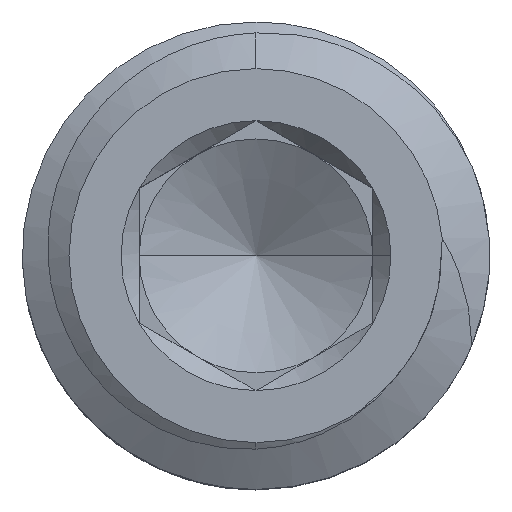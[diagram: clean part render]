
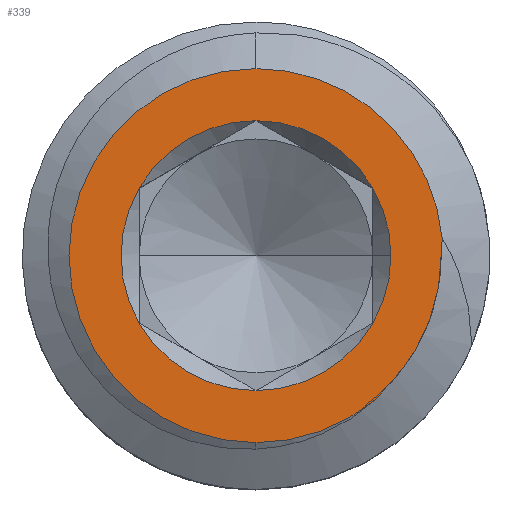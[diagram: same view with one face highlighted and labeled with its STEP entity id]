
A CAD part, top view. The second image highlights one B-rep face of the part: STEP entity #339.
In plain terms, the highlighted planar face has unit normal (0, 0, 1).
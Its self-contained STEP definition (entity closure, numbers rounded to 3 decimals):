
#10 = EDGE_CURVE ( 'NONE', #2118, #950, #1309, .T. ) ;
#11 = CIRCLE ( 'NONE', #1672, 1.443 ) ;
#17 = VERTEX_POINT ( 'NONE', #1960 ) ;
#34 = DIRECTION ( 'NONE',  ( 0., 0., 1. ) ) ;
#53 = DIRECTION ( 'NONE',  ( 0., 0., 1. ) ) ;
#69 = DIRECTION ( 'NONE',  ( 1., 0., 0. ) ) ;
#82 = CARTESIAN_POINT ( 'NONE',  ( 1.321, -1.494, 2.088 ) ) ;
#86 = ORIENTED_EDGE ( 'NONE', *, *, #179, .T. ) ;
#90 = CIRCLE ( 'NONE', #532, 1.443 ) ;
#106 = CARTESIAN_POINT ( 'NONE',  ( 0., 2., 2.088 ) ) ;
#123 = CARTESIAN_POINT ( 'NONE',  ( 0., -1.443, 2.088 ) ) ;
#143 = ORIENTED_EDGE ( 'NONE', *, *, #355, .T. ) ;
#152 = EDGE_CURVE ( 'NONE', #1772, #17, #11, .T. ) ;
#155 = DIRECTION ( 'NONE',  ( 0., 0., 1. ) ) ;
#176 = DIRECTION ( 'NONE',  ( 0., 0., 1. ) ) ;
#179 = EDGE_CURVE ( 'NONE', #196, #1793, #669, .T. ) ;
#193 = ORIENTED_EDGE ( 'NONE', *, *, #1414, .F. ) ;
#196 = VERTEX_POINT ( 'NONE', #654 ) ;
#263 = CARTESIAN_POINT ( 'NONE',  ( 1.278, -1.538, 2.088 ) ) ;
#293 = VERTEX_POINT ( 'NONE', #468 ) ;
#297 = ORIENTED_EDGE ( 'NONE', *, *, #1443, .F. ) ;
#307 = AXIS2_PLACEMENT_3D ( 'NONE', #1234, #155, #2122 ) ;
#309 = CARTESIAN_POINT ( 'NONE',  ( 0., 0., 2.088 ) ) ;
#312 = DIRECTION ( 'NONE',  ( 0., -1., 0. ) ) ;
#328 = CARTESIAN_POINT ( 'NONE',  ( 1.718, -0.994, 2.088 ) ) ;
#339 = ADVANCED_FACE ( 'NONE', ( #2177, #806 ), #470, .F. ) ;
#355 = EDGE_CURVE ( 'NONE', #1793, #1472, #1362, .T. ) ;
#394 = VERTEX_POINT ( 'NONE', #2174 ) ;
#425 = B_SPLINE_CURVE_WITH_KNOTS ( 'NONE', 3,
 ( #1494, #2218, #2034, #960 ),
 .UNSPECIFIED., .F., .F.,
 ( 4, 4 ),
 ( 0.002, 0.002 ),
 .UNSPECIFIED. ) ;
#442 = DIRECTION ( 'NONE',  ( 1., 0., 0. ) ) ;
#468 = CARTESIAN_POINT ( 'NONE',  ( 1.278, -1.538, 2.088 ) ) ;
#470 = PLANE ( 'NONE',  #871 ) ;
#482 = DIRECTION ( 'NONE',  ( 0., 0., 1. ) ) ;
#492 = ORIENTED_EDGE ( 'NONE', *, *, #1479, .F. ) ;
#499 = CARTESIAN_POINT ( 'NONE',  ( 1.917, -0.515, 2.088 ) ) ;
#532 = AXIS2_PLACEMENT_3D ( 'NONE', #588, #53, #2242 ) ;
#535 = ORIENTED_EDGE ( 'NONE', *, *, #1272, .F. ) ;
#588 = CARTESIAN_POINT ( 'NONE',  ( 0., 0., 2.088 ) ) ;
#601 = AXIS2_PLACEMENT_3D ( 'NONE', #1886, #777, #2066 ) ;
#618 = CIRCLE ( 'NONE', #674, 1.443 ) ;
#637 = DIRECTION ( 'NONE',  ( 0., 1., 0. ) ) ;
#648 = VERTEX_POINT ( 'NONE', #1518 ) ;
#654 = CARTESIAN_POINT ( 'NONE',  ( 1.992, 0.184, 2.088 ) ) ;
#669 = CIRCLE ( 'NONE', #2007, 2. ) ;
#672 = EDGE_LOOP ( 'NONE', ( #1153, #86, #143, #1244, #1647, #2155 ) ) ;
#674 = AXIS2_PLACEMENT_3D ( 'NONE', #1901, #975, #69 ) ;
#679 = ORIENTED_EDGE ( 'NONE', *, *, #1318, .F. ) ;
#749 = CIRCLE ( 'NONE', #307, 1.443 ) ;
#777 = DIRECTION ( 'NONE',  ( 0., 0., 1. ) ) ;
#794 = CARTESIAN_POINT ( 'NONE',  ( 1.4, -1.4, 2.088 ) ) ;
#806 = FACE_OUTER_BOUND ( 'NONE', #672, .T. ) ;
#808 = CARTESIAN_POINT ( 'NONE',  ( 0., 0., 2.088 ) ) ;
#829 = CARTESIAN_POINT ( 'NONE',  ( 1.493, -1.308, 2.088 ) ) ;
#854 = DIRECTION ( 'NONE',  ( 1., 0., 0. ) ) ;
#856 = CARTESIAN_POINT ( 'NONE',  ( 1.879, -0.638, 2.088 ) ) ;
#871 = AXIS2_PLACEMENT_3D ( 'NONE', #1743, #2100, #637 ) ;
#918 = ORIENTED_EDGE ( 'NONE', *, *, #1645, .F. ) ;
#938 = EDGE_CURVE ( 'NONE', #1472, #293, #1378, .T. ) ;
#945 = EDGE_CURVE ( 'NONE', #196, #2118, #425, .T. ) ;
#950 = VERTEX_POINT ( 'NONE', #1720 ) ;
#960 = CARTESIAN_POINT ( 'NONE',  ( 1.98, 0., 2.088 ) ) ;
#975 = DIRECTION ( 'NONE',  ( 0., 0., 1. ) ) ;
#993 = CIRCLE ( 'NONE', #1513, 1.443 ) ;
#1001 = DIRECTION ( 'NONE',  ( 1., 0., 0. ) ) ;
#1017 = VERTEX_POINT ( 'NONE', #1516 ) ;
#1039 = CARTESIAN_POINT ( 'NONE',  ( 1.575, -1.208, 2.088 ) ) ;
#1153 = ORIENTED_EDGE ( 'NONE', *, *, #945, .F. ) ;
#1208 = DIRECTION ( 'NONE',  ( 1., 0., 0. ) ) ;
#1211 = CARTESIAN_POINT ( 'NONE',  ( 1.98, -0.131, 2.088 ) ) ;
#1215 = CARTESIAN_POINT ( 'NONE',  ( 1.98, 0., 2.088 ) ) ;
#1229 = CARTESIAN_POINT ( 'NONE',  ( 1.98, 0., 2.088 ) ) ;
#1234 = CARTESIAN_POINT ( 'NONE',  ( 0., 0., 2.088 ) ) ;
#1244 = ORIENTED_EDGE ( 'NONE', *, *, #938, .T. ) ;
#1272 = EDGE_CURVE ( 'NONE', #1565, #1017, #90, .T. ) ;
#1309 = B_SPLINE_CURVE_WITH_KNOTS ( 'NONE', 3,
 ( #1229, #1211, #2293, #499, #856, #1412, #328, #1039, #829, #1569 ),
 .UNSPECIFIED., .F., .F.,
 ( 4, 2, 2, 2, 4 ),
 ( 0., 0., 0.001, 0.001, 0.002 ),
 .UNSPECIFIED. ) ;
#1318 = EDGE_CURVE ( 'NONE', #1017, #648, #993, .T. ) ;
#1362 = CIRCLE ( 'NONE', #1976, 2. ) ;
#1378 = CIRCLE ( 'NONE', #601, 2. ) ;
#1412 = CARTESIAN_POINT ( 'NONE',  ( 1.78, -0.878, 2.088 ) ) ;
#1414 = EDGE_CURVE ( 'NONE', #648, #2248, #2142, .T. ) ;
#1420 = EDGE_LOOP ( 'NONE', ( #535, #918, #2277, #297, #492, #193, #679 ) ) ;
#1428 = CIRCLE ( 'NONE', #1881, 1.443 ) ;
#1443 = EDGE_CURVE ( 'NONE', #394, #1772, #749, .T. ) ;
#1472 = VERTEX_POINT ( 'NONE', #2309 ) ;
#1479 = EDGE_CURVE ( 'NONE', #2248, #394, #1428, .T. ) ;
#1494 = CARTESIAN_POINT ( 'NONE',  ( 1.992, 0.184, 2.088 ) ) ;
#1513 = AXIS2_PLACEMENT_3D ( 'NONE', #1529, #34, #442 ) ;
#1516 = CARTESIAN_POINT ( 'NONE',  ( -1.25, 0.722, 2.088 ) ) ;
#1518 = CARTESIAN_POINT ( 'NONE',  ( -1.25, -0.722, 2.088 ) ) ;
#1529 = CARTESIAN_POINT ( 'NONE',  ( 0., 0., 2.088 ) ) ;
#1565 = VERTEX_POINT ( 'NONE', #1651 ) ;
#1569 = CARTESIAN_POINT ( 'NONE',  ( 1.4, -1.4, 2.088 ) ) ;
#1590 = DIRECTION ( 'NONE',  ( 0., 0., 1. ) ) ;
#1630 = CARTESIAN_POINT ( 'NONE',  ( 0., 0., 2.088 ) ) ;
#1645 = EDGE_CURVE ( 'NONE', #17, #1565, #618, .T. ) ;
#1647 = ORIENTED_EDGE ( 'NONE', *, *, #1684, .F. ) ;
#1651 = CARTESIAN_POINT ( 'NONE',  ( 0., 1.443, 2.088 ) ) ;
#1672 = AXIS2_PLACEMENT_3D ( 'NONE', #808, #2081, #1001 ) ;
#1684 = EDGE_CURVE ( 'NONE', #950, #293, #2340, .T. ) ;
#1720 = CARTESIAN_POINT ( 'NONE',  ( 1.4, -1.4, 2.088 ) ) ;
#1743 = CARTESIAN_POINT ( 'NONE',  ( 0., 0., 2.088 ) ) ;
#1772 = VERTEX_POINT ( 'NONE', #2270 ) ;
#1786 = CARTESIAN_POINT ( 'NONE',  ( 0., 0., 2.088 ) ) ;
#1793 = VERTEX_POINT ( 'NONE', #106 ) ;
#1805 = AXIS2_PLACEMENT_3D ( 'NONE', #309, #1590, #854 ) ;
#1881 = AXIS2_PLACEMENT_3D ( 'NONE', #1786, #482, #1208 ) ;
#1886 = CARTESIAN_POINT ( 'NONE',  ( 0., 0., 2.088 ) ) ;
#1901 = CARTESIAN_POINT ( 'NONE',  ( 0., 0., 2.088 ) ) ;
#1941 = DIRECTION ( 'NONE',  ( 0., 0., 1. ) ) ;
#1960 = CARTESIAN_POINT ( 'NONE',  ( 1.25, 0.722, 2.088 ) ) ;
#1976 = AXIS2_PLACEMENT_3D ( 'NONE', #1630, #176, #1992 ) ;
#1992 = DIRECTION ( 'NONE',  ( 0., -1., 0. ) ) ;
#2007 = AXIS2_PLACEMENT_3D ( 'NONE', #2305, #1941, #312 ) ;
#2034 = CARTESIAN_POINT ( 'NONE',  ( 1.987, 0.061, 2.088 ) ) ;
#2066 = DIRECTION ( 'NONE',  ( 0., -1., 0. ) ) ;
#2081 = DIRECTION ( 'NONE',  ( 0., 0., 1. ) ) ;
#2088 = CARTESIAN_POINT ( 'NONE',  ( 1.361, -1.448, 2.088 ) ) ;
#2100 = DIRECTION ( 'NONE',  ( 0., 0., -1. ) ) ;
#2118 = VERTEX_POINT ( 'NONE', #1215 ) ;
#2122 = DIRECTION ( 'NONE',  ( 1., 0., 0. ) ) ;
#2142 = CIRCLE ( 'NONE', #1805, 1.443 ) ;
#2155 = ORIENTED_EDGE ( 'NONE', *, *, #10, .F. ) ;
#2174 = CARTESIAN_POINT ( 'NONE',  ( 1.25, -0.722, 2.088 ) ) ;
#2177 = FACE_BOUND ( 'NONE', #1420, .T. ) ;
#2218 = CARTESIAN_POINT ( 'NONE',  ( 1.991, 0.123, 2.088 ) ) ;
#2242 = DIRECTION ( 'NONE',  ( 1., 0., 0. ) ) ;
#2248 = VERTEX_POINT ( 'NONE', #123 ) ;
#2270 = CARTESIAN_POINT ( 'NONE',  ( 1.443, 0., 2.088 ) ) ;
#2277 = ORIENTED_EDGE ( 'NONE', *, *, #152, .F. ) ;
#2293 = CARTESIAN_POINT ( 'NONE',  ( 1.967, -0.262, 2.088 ) ) ;
#2305 = CARTESIAN_POINT ( 'NONE',  ( 0., 0., 2.088 ) ) ;
#2309 = CARTESIAN_POINT ( 'NONE',  ( 0., -2., 2.088 ) ) ;
#2340 = B_SPLINE_CURVE_WITH_KNOTS ( 'NONE', 3,
 ( #794, #2088, #82, #263 ),
 .UNSPECIFIED., .F., .F.,
 ( 4, 4 ),
 ( 0., 0. ),
 .UNSPECIFIED. ) ;
